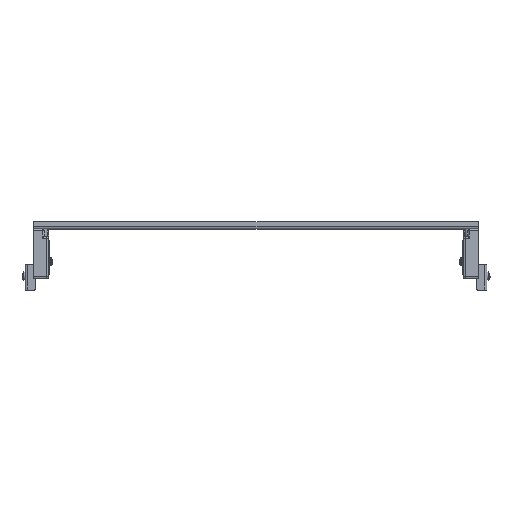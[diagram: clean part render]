
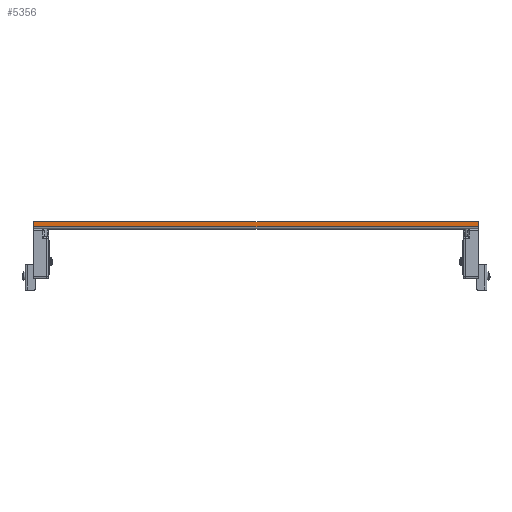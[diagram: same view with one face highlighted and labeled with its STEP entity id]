
A CAD part, top view. The second image highlights one B-rep face of the part: STEP entity #5356.
In plain terms, the highlighted planar face has unit normal (0, 0, 1).
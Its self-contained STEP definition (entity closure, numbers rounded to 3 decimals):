
#5356=ADVANCED_FACE('',(#9849),#7259,.T.);
#7259=PLANE('',#58073);
#9849=FACE_OUTER_BOUND('',#13054,.T.);
#13054=EDGE_LOOP('',(#35335,#35336,#35337,#35338));
#17399=LINE('',#92906,#22199);
#17448=LINE('',#93064,#22248);
#17464=LINE('',#93100,#22264);
#17467=LINE('',#93107,#22267);
#22199=VECTOR('',#71030,1.);
#22248=VECTOR('',#71153,1.);
#22264=VECTOR('',#71183,1.);
#22267=VECTOR('',#71190,1.);
#35335=ORIENTED_EDGE('',*,*,#49921,.T.);
#35336=ORIENTED_EDGE('',*,*,#49917,.T.);
#35337=ORIENTED_EDGE('',*,*,#49899,.F.);
#35338=ORIENTED_EDGE('',*,*,#49820,.F.);
#42714=VERTEX_POINT('',#92905);
#42715=VERTEX_POINT('',#92907);
#42787=VERTEX_POINT('',#93065);
#42800=VERTEX_POINT('',#93101);
#49820=EDGE_CURVE('',#42714,#42715,#17399,.T.);
#49899=EDGE_CURVE('',#42715,#42787,#17448,.T.);
#49917=EDGE_CURVE('',#42800,#42787,#17464,.T.);
#49921=EDGE_CURVE('',#42714,#42800,#17467,.T.);
#58073=AXIS2_PLACEMENT_3D('',#93138,#71219,#71220);
#71030=DIRECTION('',(1.,0.,0.));
#71153=DIRECTION('',(0.,-1.,0.));
#71183=DIRECTION('',(1.,0.,0.));
#71190=DIRECTION('',(0.,-1.,0.));
#71219=DIRECTION('',(0.,0.,1.));
#71220=DIRECTION('',(0.,-1.,0.));
#92905=CARTESIAN_POINT('',(-315.8,10.,63.));
#92906=CARTESIAN_POINT('',(0.,10.,63.));
#92907=CARTESIAN_POINT('',(315.8,10.,63.));
#93064=CARTESIAN_POINT('',(315.8,6.25,63.));
#93065=CARTESIAN_POINT('',(315.8,2.5,63.));
#93100=CARTESIAN_POINT('',(0.,2.5,63.));
#93101=CARTESIAN_POINT('',(-315.8,2.5,63.));
#93107=CARTESIAN_POINT('',(-315.8,6.25,63.));
#93138=CARTESIAN_POINT('',(-315.8,10.,63.));
